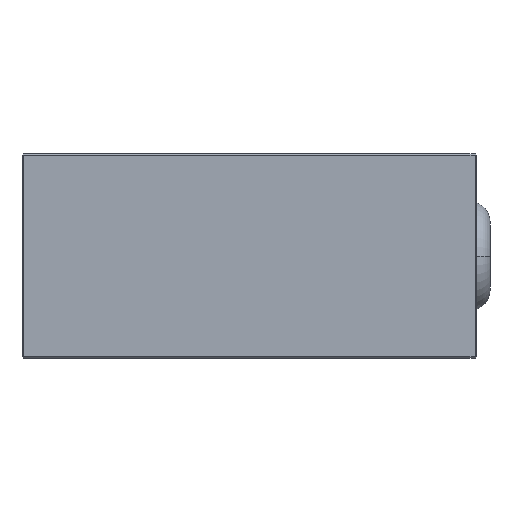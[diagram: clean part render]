
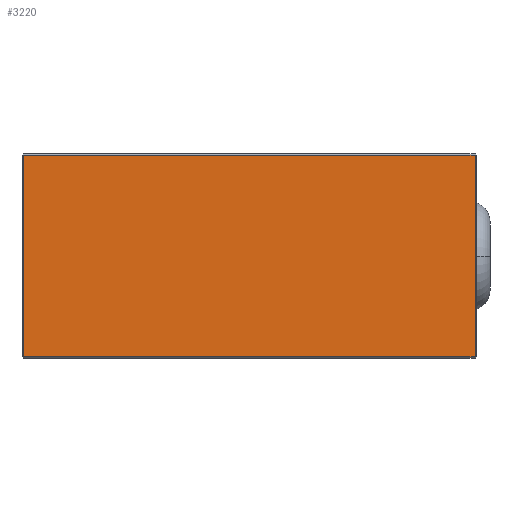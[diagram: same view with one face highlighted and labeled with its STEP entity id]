
A CAD part, front view. The second image highlights one B-rep face of the part: STEP entity #3220.
In plain terms, the highlighted planar face has unit normal (0, -1, 0).
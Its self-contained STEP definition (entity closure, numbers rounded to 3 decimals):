
#293 = CARTESIAN_POINT ( 'NONE',  ( -47.018, -25.753, -22.2 ) ) ;
#724 = CARTESIAN_POINT ( 'NONE',  ( 52.682, -25.753, 22.5 ) ) ;
#954 = DIRECTION ( 'NONE',  ( 0., 0., -1. ) ) ;
#2035 = VECTOR ( 'NONE', #954, 1000. ) ;
#2045 = DIRECTION ( 'NONE',  ( 0., 0., 1. ) ) ;
#2729 = VECTOR ( 'NONE', #8487, 1000. ) ;
#3105 = VERTEX_POINT ( 'NONE', #293 ) ;
#3220 = ADVANCED_FACE ( 'NONE', ( #10871 ), #8516, .F. ) ;
#3455 = VECTOR ( 'NONE', #14640, 1000. ) ;
#5165 = ORIENTED_EDGE ( 'NONE', *, *, #5796, .T. ) ;
#5298 = CARTESIAN_POINT ( 'NONE',  ( 52.382, -25.753, -22.2 ) ) ;
#5796 = EDGE_CURVE ( 'NONE', #13226, #6605, #10768, .T. ) ;
#5997 = CARTESIAN_POINT ( 'NONE',  ( -47.018, -25.753, 22.2 ) ) ;
#6605 = VERTEX_POINT ( 'NONE', #5997 ) ;
#6724 = LINE ( 'NONE', #15232, #2035 ) ;
#6916 = EDGE_CURVE ( 'NONE', #3105, #14177, #13497, .T. ) ;
#7337 = LINE ( 'NONE', #9638, #14038 ) ;
#7856 = EDGE_CURVE ( 'NONE', #6605, #3105, #6724, .T. ) ;
#8487 = DIRECTION ( 'NONE',  ( 1., 0., 0. ) ) ;
#8516 = PLANE ( 'NONE',  #16773 ) ;
#9297 = CARTESIAN_POINT ( 'NONE',  ( 52.382, -25.753, 22.2 ) ) ;
#9564 = EDGE_LOOP ( 'NONE', ( #11490, #13639, #10383, #5165 ) ) ;
#9638 = CARTESIAN_POINT ( 'NONE',  ( 52.382, -25.753, 22.5 ) ) ;
#9802 = DIRECTION ( 'NONE',  ( 0., 1., 0. ) ) ;
#10320 = EDGE_CURVE ( 'NONE', #14177, #13226, #7337, .T. ) ;
#10383 = ORIENTED_EDGE ( 'NONE', *, *, #10320, .T. ) ;
#10768 = LINE ( 'NONE', #16010, #3455 ) ;
#10871 = FACE_OUTER_BOUND ( 'NONE', #9564, .T. ) ;
#11490 = ORIENTED_EDGE ( 'NONE', *, *, #7856, .T. ) ;
#13226 = VERTEX_POINT ( 'NONE', #9297 ) ;
#13492 = DIRECTION ( 'NONE',  ( 0., 0., 1. ) ) ;
#13497 = LINE ( 'NONE', #16309, #2729 ) ;
#13639 = ORIENTED_EDGE ( 'NONE', *, *, #6916, .T. ) ;
#14038 = VECTOR ( 'NONE', #13492, 1000. ) ;
#14177 = VERTEX_POINT ( 'NONE', #5298 ) ;
#14640 = DIRECTION ( 'NONE',  ( -1., 0., 0. ) ) ;
#15232 = CARTESIAN_POINT ( 'NONE',  ( -47.018, -25.753, -22.5 ) ) ;
#16010 = CARTESIAN_POINT ( 'NONE',  ( 52.682, -25.753, 22.2 ) ) ;
#16309 = CARTESIAN_POINT ( 'NONE',  ( 52.682, -25.753, -22.2 ) ) ;
#16773 = AXIS2_PLACEMENT_3D ( 'NONE', #724, #9802, #2045 ) ;
